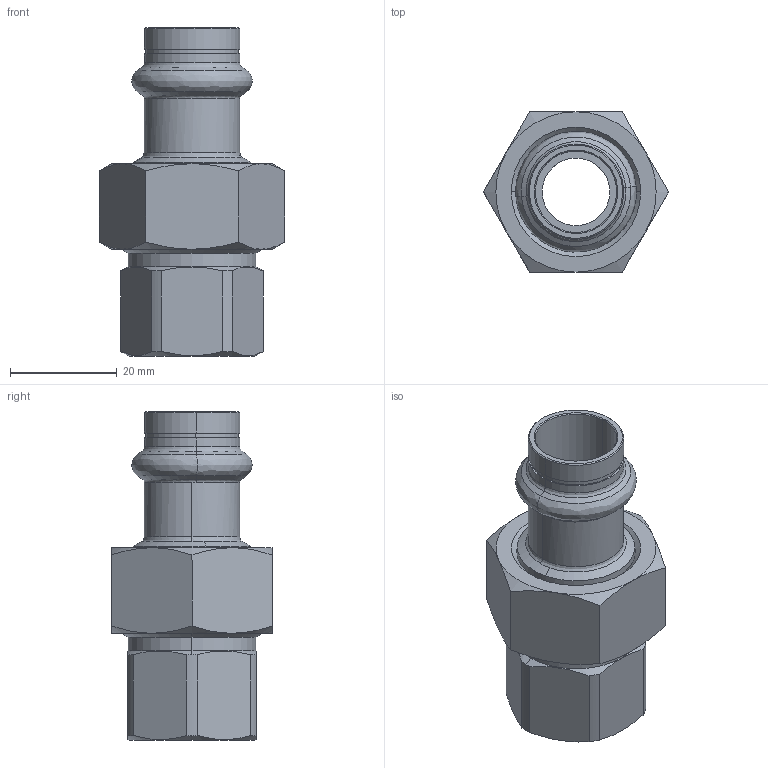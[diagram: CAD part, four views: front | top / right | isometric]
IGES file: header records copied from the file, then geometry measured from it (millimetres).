
Start section: Elysium IGES Interface
Global section: file name: F:\3d modellen sudo\S-Pr VP\SP6330GV\6330GVW1512.igs; native system: CoCreate Modeling 17.00A  17-Jun-2010; preprocessor: CoCreate IGES_3D V2.2; author: Unknown; organization: Unknown; date: 20130129.092241; units: millimetre
Bounding box: 34.64 x 30 x 61.5 mm (x, y, z)
Volume: 15840.7 mm3; surface area: 11970.1 mm2
Topology: 3 solids, 3 shells, 126 faces, 290 edges, 174 vertices
Faces by surface type: bspline 126
